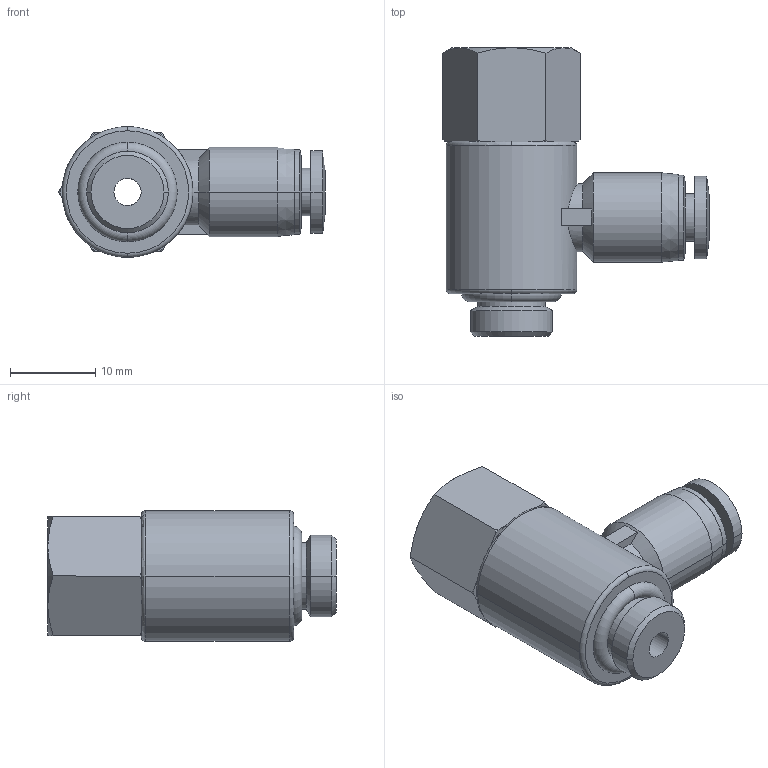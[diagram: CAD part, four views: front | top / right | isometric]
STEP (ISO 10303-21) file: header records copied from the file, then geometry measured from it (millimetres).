
FILE_DESCRIPTION (( 'STEP AP203' ), '1' );
FILE_NAME ('FVF04-01.STEP', '2020-05-11T14:28:11', ( '' ), ( '' ), 'SwSTEP 2.0', 'SolidWorks 2019', '' );
FILE_SCHEMA (( 'CONFIG_CONTROL_DESIGN' ));
Length unit declared in the file: millimetre
Products named in the file (1): FVF04-01
Bounding box: 31.33 x 33.9 x 15.4 mm (x, y, z)
Volume: 5639.2 mm3; surface area: 3353.6 mm2
Topology: 1 solids, 1 shells, 92 faces, 219 edges, 134 vertices
Faces by surface type: plane 33, cone 26, cylinder 25, torus 6, bspline 2
Entity records: 2876 total; most frequent: CARTESIAN_POINT 700, DIRECTION 467, ORIENTED_EDGE 438, EDGE_CURVE 219, AXIS2_PLACEMENT_3D 197, VERTEX_POINT 134, CIRCLE 106, EDGE_LOOP 101
